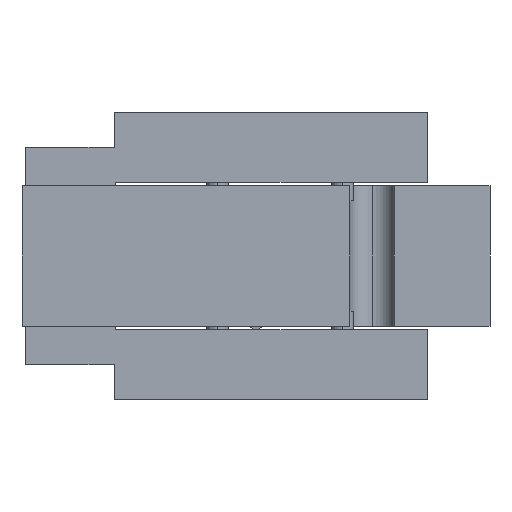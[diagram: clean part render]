
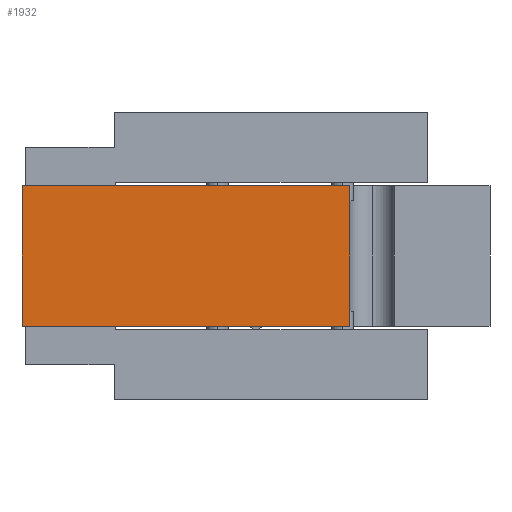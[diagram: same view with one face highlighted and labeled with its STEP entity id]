
A CAD part, left-side view. The second image highlights one B-rep face of the part: STEP entity #1932.
In plain terms, the highlighted planar face has unit normal (-1, 0, 0).
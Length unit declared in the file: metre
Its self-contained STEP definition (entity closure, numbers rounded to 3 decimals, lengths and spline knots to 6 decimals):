
#357 = EDGE_LOOP ( 'NONE', ( #729, #728, #715, #706 ) ) ;
#706 = ORIENTED_EDGE ( 'NONE', *, *, #1510, .T. ) ;
#715 = ORIENTED_EDGE ( 'NONE', *, *, #1381, .F. ) ;
#728 = ORIENTED_EDGE ( 'NONE', *, *, #1514, .T. ) ;
#729 = ORIENTED_EDGE ( 'NONE', *, *, #1383, .T. ) ;
#1381 = EDGE_CURVE ( 'NONE', #2016, #2019, #11499, .T. ) ;
#1383 = EDGE_CURVE ( 'NONE', #2675, #2670, #11498, .T. ) ;
#1510 = EDGE_CURVE ( 'NONE', #2016, #2675, #11404, .T. ) ;
#1514 = EDGE_CURVE ( 'NONE', #2670, #2019, #11310, .T. ) ;
#1932 = ADVANCED_FACE ( 'NONE', ( #13061 ), #5243, .F. ) ;
#2016 = VERTEX_POINT ( 'NONE', #9903 ) ;
#2019 = VERTEX_POINT ( 'NONE', #9897 ) ;
#2670 = VERTEX_POINT ( 'NONE', #10120 ) ;
#2675 = VERTEX_POINT ( 'NONE', #10125 ) ;
#2971 = AXIS2_PLACEMENT_3D ( 'NONE', #5262, #5263, #5264 ) ;
#5243 = PLANE ( 'NONE',  #2971 ) ;
#5262 = CARTESIAN_POINT ( 'NONE',  ( -0.059582, 0.010551, 0.003355 ) ) ;
#5263 = DIRECTION ( 'NONE',  ( 1., 0., 0. ) ) ;
#5264 = DIRECTION ( 'NONE',  ( 0., 0., -1. ) ) ;
#9897 = CARTESIAN_POINT ( 'NONE',  ( -0.059582, 0.029551, 0.003355 ) ) ;
#9903 = CARTESIAN_POINT ( 'NONE',  ( -0.059582, 0.074051, 0.003355 ) ) ;
#10120 = CARTESIAN_POINT ( 'NONE',  ( -0.059582, 0.029551, -0.015645 ) ) ;
#10125 = CARTESIAN_POINT ( 'NONE',  ( -0.059582, 0.074051, -0.015645 ) ) ;
#11207 = CARTESIAN_POINT ( 'NONE',  ( -0.059582, 0.074051, 0.003355 ) ) ;
#11210 = DIRECTION ( 'NONE',  ( 0., 0., -1. ) ) ;
#11218 = CARTESIAN_POINT ( 'NONE',  ( -0.059582, 0.029551, -0.015645 ) ) ;
#11221 = DIRECTION ( 'NONE',  ( 0., 0., 1. ) ) ;
#11310 = LINE ( 'NONE', #11218, #11360 ) ;
#11325 = VECTOR ( 'NONE', #11210, 1. ) ;
#11360 = VECTOR ( 'NONE', #11221, 1. ) ;
#11404 = LINE ( 'NONE', #11207, #11325 ) ;
#11488 = VECTOR ( 'NONE', #12772, 1. ) ;
#11498 = LINE ( 'NONE', #12838, #11515 ) ;
#11499 = LINE ( 'NONE', #12829, #11488 ) ;
#11515 = VECTOR ( 'NONE', #12827, 1. ) ;
#12772 = DIRECTION ( 'NONE',  ( 0., -1., 0. ) ) ;
#12827 = DIRECTION ( 'NONE',  ( 0., -1., 0. ) ) ;
#12829 = CARTESIAN_POINT ( 'NONE',  ( -0.059582, 0.010551, 0.003355 ) ) ;
#12838 = CARTESIAN_POINT ( 'NONE',  ( -0.059582, 0.010551, -0.015645 ) ) ;
#13061 = FACE_OUTER_BOUND ( 'NONE', #357, .T. ) ;
